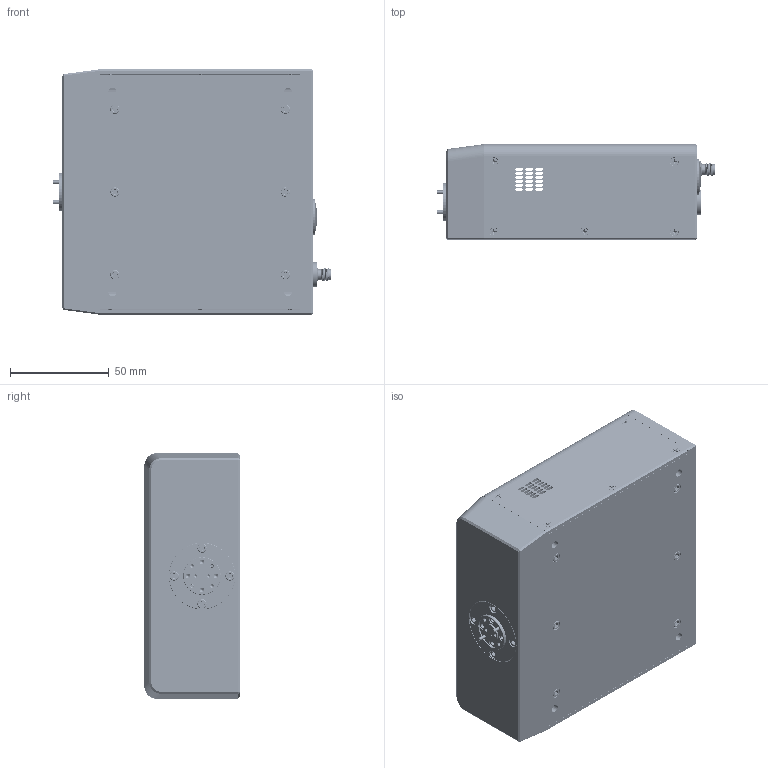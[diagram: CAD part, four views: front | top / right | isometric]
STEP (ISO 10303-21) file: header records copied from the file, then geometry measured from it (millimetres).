
FILE_DESCRIPTION (( 'STEP AP214' ), '1' );
FILE_NAME ('TC-E-A-IDP_Mountable.STEP', '2026-01-02T21:15:22', ( '' ), ( '' ), 'SwSTEP 2.0', 'SolidWorks 2021', '' );
FILE_SCHEMA (( 'AUTOMOTIVE_DESIGN' ));
Length unit declared in the file: inch
Products named in the file (1): TC-E-A-IDP_Mountable
Bounding box: 140.66 x 48.26 x 124.32 mm (x, y, z)
Volume: 269244.2 mm3; surface area: 137857.4 mm2
Topology: 45 solids, 45 shells, 3195 faces, 8575 edges, 5448 vertices
Faces by surface type: cylinder 1530, plane 872, cone 537, bspline 248, sphere 6, torus 2
Entity records: 219903 total; most frequent: CARTESIAN_POINT 147387, ORIENTED_EDGE 16830, DIRECTION 13081, EDGE_CURVE 8415, VERTEX_POINT 5448, AXIS2_PLACEMENT_3D 4822, EDGE_LOOP 3527, LINE 3437
